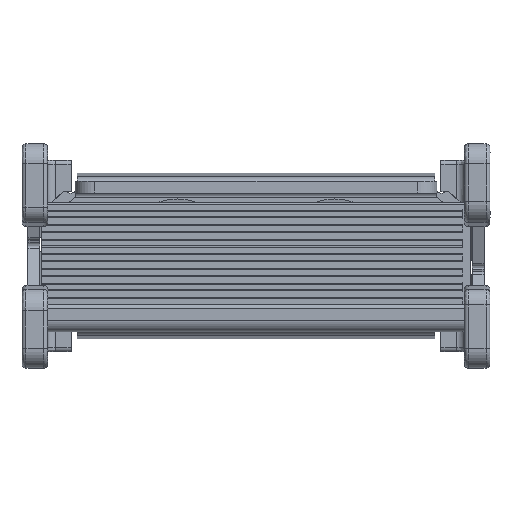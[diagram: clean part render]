
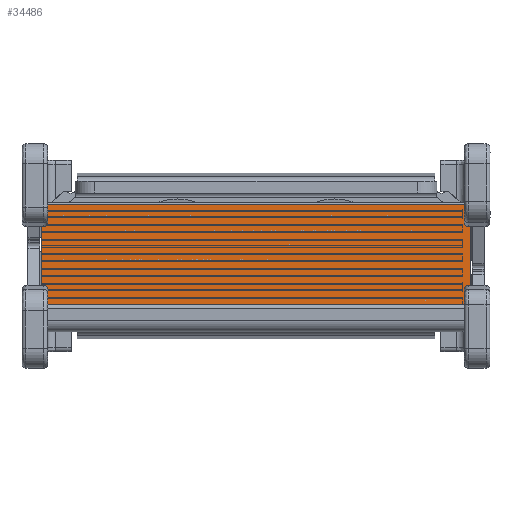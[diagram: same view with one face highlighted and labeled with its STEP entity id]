
A CAD part, front view. The second image highlights one B-rep face of the part: STEP entity #34486.
In plain terms, the highlighted planar face has unit normal (0, -1, 0).
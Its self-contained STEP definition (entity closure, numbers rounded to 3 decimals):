
#797 = ORIENTED_EDGE ( 'NONE', *, *, #33326, .T. ) ;
#2097 = DIRECTION ( 'NONE',  ( 0., 0., 1. ) ) ;
#2575 = VECTOR ( 'NONE', #31307, 1000. ) ;
#3622 = VERTEX_POINT ( 'NONE', #9142 ) ;
#4678 = VECTOR ( 'NONE', #14114, 1000. ) ;
#4728 = EDGE_CURVE ( 'NONE', #7935, #7243, #13247, .T. ) ;
#5924 = CARTESIAN_POINT ( 'NONE',  ( 58., 21.6, 10.23 ) ) ;
#6328 = CARTESIAN_POINT ( 'NONE',  ( 113.1, 21.6, 10.23 ) ) ;
#7243 = VERTEX_POINT ( 'NONE', #8126 ) ;
#7633 = VECTOR ( 'NONE', #2097, 1000. ) ;
#7935 = VERTEX_POINT ( 'NONE', #15210 ) ;
#8126 = CARTESIAN_POINT ( 'NONE',  ( 4., 21.6, -19.27 ) ) ;
#8280 = PLANE ( 'NONE',  #10119 ) ;
#9142 = CARTESIAN_POINT ( 'NONE',  ( 113.1, 21.6, -19.27 ) ) ;
#10119 = AXIS2_PLACEMENT_3D ( 'NONE', #28103, #14025, #30722 ) ;
#13247 = LINE ( 'NONE', #20207, #2575 ) ;
#14025 = DIRECTION ( 'NONE',  ( 0., -1., 0. ) ) ;
#14114 = DIRECTION ( 'NONE',  ( 1., 0., 0. ) ) ;
#14886 = FACE_OUTER_BOUND ( 'NONE', #31074, .T. ) ;
#15210 = CARTESIAN_POINT ( 'NONE',  ( 4., 21.6, 10.23 ) ) ;
#16260 = LINE ( 'NONE', #19323, #4678 ) ;
#19112 = CARTESIAN_POINT ( 'NONE',  ( 113.1, 21.6, 10.73 ) ) ;
#19323 = CARTESIAN_POINT ( 'NONE',  ( 58., 21.6, -19.27 ) ) ;
#20114 = ORIENTED_EDGE ( 'NONE', *, *, #35556, .T. ) ;
#20207 = CARTESIAN_POINT ( 'NONE',  ( 4., 21.6, -5.77 ) ) ;
#23821 = ORIENTED_EDGE ( 'NONE', *, *, #30931, .T. ) ;
#24332 = VERTEX_POINT ( 'NONE', #6328 ) ;
#24447 = ORIENTED_EDGE ( 'NONE', *, *, #4728, .T. ) ;
#24994 = LINE ( 'NONE', #19112, #7633 ) ;
#25310 = VECTOR ( 'NONE', #25869, 1000. ) ;
#25869 = DIRECTION ( 'NONE',  ( -1., 0., 0. ) ) ;
#28103 = CARTESIAN_POINT ( 'NONE',  ( 58., 21.6, 10.73 ) ) ;
#30722 = DIRECTION ( 'NONE',  ( -1., 0., 0. ) ) ;
#30931 = EDGE_CURVE ( 'NONE', #24332, #7935, #32886, .T. ) ;
#31074 = EDGE_LOOP ( 'NONE', ( #24447, #797, #20114, #23821 ) ) ;
#31307 = DIRECTION ( 'NONE',  ( 0., 0., -1. ) ) ;
#32886 = LINE ( 'NONE', #5924, #25310 ) ;
#33326 = EDGE_CURVE ( 'NONE', #7243, #3622, #16260, .T. ) ;
#34486 = ADVANCED_FACE ( 'NONE', ( #14886 ), #8280, .T. ) ;
#35556 = EDGE_CURVE ( 'NONE', #3622, #24332, #24994, .T. ) ;
